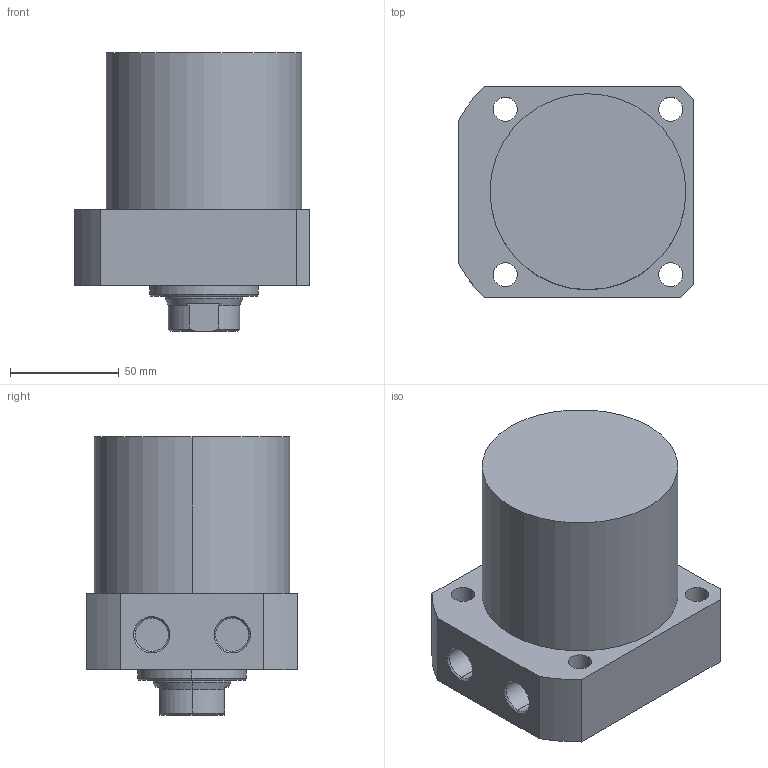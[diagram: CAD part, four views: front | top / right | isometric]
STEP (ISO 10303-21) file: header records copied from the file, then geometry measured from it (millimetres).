
FILE_DESCRIPTION (( 'STEP AP203' ), '1' );
FILE_NAME ('CLLR-090CA-050.STEP', '2019-12-19T02:17:48', ( '' ), ( '' ), 'SwSTEP 2.0', 'SolidWorks 2015', '' );
FILE_SCHEMA (( 'CONFIG_CONTROL_DESIGN' ));
Length unit declared in the file: millimetre
Products named in the file (1): CLLR-090CA-050
Bounding box: 108 x 97 x 128 mm (x, y, z)
Volume: 808307.3 mm3; surface area: 65420.1 mm2
Topology: 1 solids, 1 shells, 63 faces, 149 edges, 94 vertices
Faces by surface type: cylinder 29, plane 19, cone 15
Entity records: 1927 total; most frequent: DIRECTION 340, CARTESIAN_POINT 337, ORIENTED_EDGE 294, EDGE_CURVE 147, AXIS2_PLACEMENT_3D 137, VERTEX_POINT 94, EDGE_LOOP 79, CIRCLE 73
